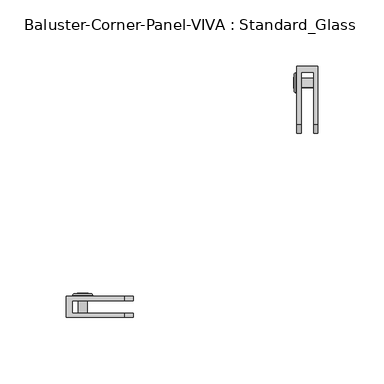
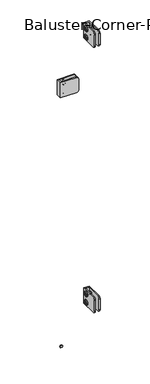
"""IFC4 building model written with IfcOpenShell, lengths in millimetres: railing geometry, Baluster-Corner-Panel-VIVA : Standard_Glass."""

from ifc_helpers import new_model, si_unit, point, frame, origin, place, context, project, spatial, polyline, circle_curve, ellipse_curve, trimmed, outline, extrude, source, transform, mapped, element, save
from ifc_brep_helpers import plane_surface, cylinder_surface, revolved_surface, advanced_brep


def baluster_corner_panel_viva_standard_glass_9f2badbb(model_context):
    return source(origin(), model_context, "Body", "SolidModel", [
        extrude(outline(polyline([(141.7526171, 917.178125), (139.705653, 913.6326791), (135.6117247, 913.6326791), (133.5647606, 917.178125), (135.6117247, 920.7235709), (139.705653, 920.7235709), (141.7526171, 917.178125)])), frame((21.7024185, 0.0, 0.0), z_axis=(1.0, 0.0, 0.0), x_axis=(0.0, 1.0, 0.0)), (0.0, 0.0, 1.0), 1.4969696),
        advanced_brep(
        [(36.7665, 141.2041348, 917.178125), (36.7665, 134.1132429, 917.178125), (24.0665, 134.1132429, 917.178125), (24.0665, 141.2041348, 917.178125), (24.0665, 130.2508998, 917.178125), (24.0665, 145.0664779, 917.178125), (23.199388, 139.3147642, 917.178125), (23.199388, 136.0026135, 917.178125), (36.7665, 136.0026135, 917.178125), (36.7665, 139.3147642, 917.178125), (23.2316551, 145.0664779, 917.178125), (23.2316551, 130.2508998, 917.178125), (21.9503831, 131.5321718, 917.178125), (21.9503831, 143.7852059, 917.178125), (21.9503831, 133.3600933, 917.178125), (21.9503831, 141.9572844, 917.178125), (23.199388, 133.3600933, 917.178125), (23.199388, 141.9572844, 917.178125)],
        [
            (0, 1, circle_curve(frame((36.7665, 137.6586888, 917.178125), z_axis=(-1.0, 0.0, 0.0), x_axis=(0.0, -1.0, 0.0)), 3.5454459)),
            (1, 2),
            (2, 3, circle_curve(frame((24.0665, 137.6586888, 917.178125), z_axis=(1.0, 0.0, 0.0), x_axis=(0.0, -1.0, 0.0)), 3.5454459)),
            (3, 0),
            (1, 0, circle_curve(frame((36.7665, 137.6586888, 917.178125), z_axis=(-1.0, 0.0, 0.0), x_axis=(0.0, -1.0, 0.0)), 3.5454459)),
            (3, 2, circle_curve(frame((24.0665, 137.6586888, 917.178125), z_axis=(1.0, 0.0, 0.0), x_axis=(0.0, -1.0, 0.0)), 3.5454459)),
            (2, 4),
            (4, 5, circle_curve(frame((24.0665, 137.6586888, 917.178125), z_axis=(1.0, 0.0, 0.0), x_axis=(0.0, -1.0, 0.0)), 7.4077891)),
            (5, 3),
            (5, 4, circle_curve(frame((24.0665, 137.6586888, 917.178125), z_axis=(1.0, 0.0, 0.0), x_axis=(0.0, -1.0, 0.0)), 7.4077891)),
            (6, 7, circle_curve(frame((23.199388, 137.6586888, 917.178125), z_axis=(-1.0, 0.0, 0.0), x_axis=(0.0, -1.0, 0.0)), 1.6560754)),
            (7, 8),
            (8, 9, circle_curve(frame((36.7665, 137.6586888, 917.178125), z_axis=(1.0, 0.0, 0.0), x_axis=(0.0, -1.0, 0.0)), 1.6560754)),
            (9, 6),
            (7, 6, circle_curve(frame((23.199388, 137.6586888, 917.178125), z_axis=(-1.0, 0.0, 0.0), x_axis=(0.0, -1.0, 0.0)), 1.6560754)),
            (9, 8, circle_curve(frame((36.7665, 137.6586888, 917.178125), z_axis=(1.0, 0.0, 0.0), x_axis=(0.0, -1.0, 0.0)), 1.6560754)),
            (10, 11, circle_curve(frame((23.2316551, 137.6586888, 917.178125), z_axis=(-1.0, 0.0, 0.0), x_axis=(0.0, -1.0, 0.0)), 7.4077891)),
            (11, 12, circle_curve(frame((23.2316551, 131.5321718, 917.178125), z_axis=(0.0, 0.0, -1.0), x_axis=(0.0, -1.0, 0.0)), 1.281272)),
            (12, 13, circle_curve(frame((21.9503831, 137.6586888, 917.178125), z_axis=(1.0, 0.0, 0.0), x_axis=(0.0, -1.0, 0.0)), 6.1265171)),
            (13, 10, circle_curve(frame((23.2316551, 143.7852059, 917.178125), z_axis=(0.0, 0.0, -1.0), x_axis=(0.0, 1.0, 0.0)), 1.281272)),
            (11, 10, circle_curve(frame((23.2316551, 137.6586888, 917.178125), z_axis=(-1.0, 0.0, 0.0), x_axis=(0.0, -1.0, 0.0)), 7.4077891)),
            (13, 12, circle_curve(frame((21.9503831, 137.6586888, 917.178125), z_axis=(1.0, 0.0, 0.0), x_axis=(0.0, -1.0, 0.0)), 6.1265171)),
            (12, 14),
            (14, 15, circle_curve(frame((21.9503831, 137.6586888, 917.178125), z_axis=(1.0, 0.0, 0.0), x_axis=(0.0, -1.0, 0.0)), 4.2985955)),
            (15, 13),
            (15, 14, circle_curve(frame((21.9503831, 137.6586888, 917.178125), z_axis=(1.0, 0.0, 0.0), x_axis=(0.0, -1.0, 0.0)), 4.2985955)),
            (4, 11),
            (10, 5),
            (8, 1),
            (0, 9),
            (14, 16),
            (16, 17, circle_curve(frame((23.199388, 137.6586888, 917.178125), z_axis=(1.0, 0.0, 0.0), x_axis=(0.0, -1.0, 0.0)), 4.2985955)),
            (17, 15),
            (17, 16, circle_curve(frame((23.199388, 137.6586888, 917.178125), z_axis=(1.0, 0.0, 0.0), x_axis=(0.0, -1.0, 0.0)), 4.2985955)),
            (16, 7),
            (6, 17),
        ],
        [
            cylinder_surface(frame((27.5632331, 137.6586888, 917.178125), z_axis=(1.0, 0.0, 0.0), x_axis=(0.0, -1.0, 0.0)), 3.5454459),
            plane_surface(frame((24.0665, 137.6586888, 917.178125), z_axis=(1.0, 0.0, 0.0), x_axis=(0.0, -1.0, 0.0))),
            revolved_surface(polyline([(36.7665, 136.0026134, 917.178125), (23.199388, 136.0026134, 917.178125)]), (27.5632331, 137.6586888, 917.178125), (1.0, 0.0, 0.0)),
            revolved_surface(trimmed(ellipse_curve(frame((23.2316551, 131.5321718, 917.178125), z_axis=(0.0, 0.0, 1.0), x_axis=(0.0, -1.0, 0.0)), 1.281272, 1.281272), [point((21.9503831, 131.5321718, 917.178125))], [point((23.2316551, 130.2508998, 917.178125))], True, "CARTESIAN"), (27.5632331, 137.6586888, 917.178125), (1.0, 0.0, 0.0)),
            plane_surface(frame((21.9503831, 137.6586888, 917.178125), z_axis=(-1.0, 0.0, 0.0), x_axis=(0.0, -1.0, 0.0))),
            cylinder_surface(frame((27.5632331, 137.6586888, 917.178125), z_axis=(1.0, 0.0, 0.0), x_axis=(0.0, -1.0, 0.0)), 7.4077891),
            plane_surface(frame((36.7665, 137.6586888, 917.178125), z_axis=(1.0, 0.0, 0.0), x_axis=(0.0, -1.0, 0.0))),
            revolved_surface(polyline([(23.199388, 133.3600933, 917.178125), (21.9503831, 133.3600933, 917.178125)]), (27.5632331, 137.6586888, 917.178125), (1.0, 0.0, 0.0)),
            plane_surface(frame((23.199388, 137.6586888, 917.178125), z_axis=(-1.0, 0.0, 0.0), x_axis=(0.0, -1.0, 0.0))),
        ],
        [
            (0, [[1, 2, 3, 4]]),
            (0, [[5, -4, 6, -2]]),
            (1, [[-3, 7, 8, 9]]),
            (1, [[-6, -9, 10, -7]]),
            (2, [[11, 12, 13, 14]]),
            (2, [[15, -14, 16, -12]]),
            (3, [[17, 18, 19, 20]]),
            (3, [[21, -20, 22, -18]]),
            (4, [[-19, 23, 24, 25]]),
            (4, [[-22, -25, 26, -23]]),
            (5, [[-8, 27, -17, 28]]),
            (5, [[-10, -28, -21, -27]]),
            (6, [[-13, 29, -1, 30]]),
            (6, [[-16, -30, -5, -29]]),
            (7, [[-24, 31, 32, 33]]),
            (7, [[-26, -33, 34, -31]]),
            (8, [[-32, 35, -11, 36]]),
            (8, [[-34, -36, -15, -35]]),
        ],
    ),
        advanced_brep(
        [(36.7665, 141.2041348, 892.571875), (36.7665, 134.1132429, 892.571875), (24.0665, 134.1132429, 892.571875), (24.0665, 141.2041348, 892.571875), (24.0665, 130.2508998, 892.571875), (24.0665, 145.0664779, 892.571875), (23.199388, 139.3147642, 892.571875), (23.199388, 136.0026135, 892.571875), (36.7665, 136.0026135, 892.571875), (36.7665, 139.3147642, 892.571875), (23.2316551, 145.0664779, 892.571875), (23.2316551, 130.2508998, 892.571875), (21.9503831, 131.5321718, 892.571875), (21.9503831, 143.7852059, 892.571875), (21.9503831, 133.3600933, 892.571875), (21.9503831, 141.9572844, 892.571875), (23.199388, 133.3600933, 892.571875), (23.199388, 141.9572844, 892.571875)],
        [
            (0, 1, circle_curve(frame((36.7665, 137.6586888, 892.571875), z_axis=(-1.0, 0.0, 0.0), x_axis=(0.0, -1.0, 0.0)), 3.5454459)),
            (1, 2),
            (2, 3, circle_curve(frame((24.0665, 137.6586888, 892.571875), z_axis=(1.0, 0.0, 0.0), x_axis=(0.0, -1.0, 0.0)), 3.5454459)),
            (3, 0),
            (1, 0, circle_curve(frame((36.7665, 137.6586888, 892.571875), z_axis=(-1.0, 0.0, 0.0), x_axis=(0.0, -1.0, 0.0)), 3.5454459)),
            (3, 2, circle_curve(frame((24.0665, 137.6586888, 892.571875), z_axis=(1.0, 0.0, 0.0), x_axis=(0.0, -1.0, 0.0)), 3.5454459)),
            (2, 4),
            (4, 5, circle_curve(frame((24.0665, 137.6586888, 892.571875), z_axis=(1.0, 0.0, 0.0), x_axis=(0.0, -1.0, 0.0)), 7.4077891)),
            (5, 3),
            (5, 4, circle_curve(frame((24.0665, 137.6586888, 892.571875), z_axis=(1.0, 0.0, 0.0), x_axis=(0.0, -1.0, 0.0)), 7.4077891)),
            (6, 7, circle_curve(frame((23.199388, 137.6586888, 892.571875), z_axis=(-1.0, 0.0, 0.0), x_axis=(0.0, -1.0, 0.0)), 1.6560754)),
            (7, 8),
            (8, 9, circle_curve(frame((36.7665, 137.6586888, 892.571875), z_axis=(1.0, 0.0, 0.0), x_axis=(0.0, -1.0, 0.0)), 1.6560754)),
            (9, 6),
            (7, 6, circle_curve(frame((23.199388, 137.6586888, 892.571875), z_axis=(-1.0, 0.0, 0.0), x_axis=(0.0, -1.0, 0.0)), 1.6560754)),
            (9, 8, circle_curve(frame((36.7665, 137.6586888, 892.571875), z_axis=(1.0, 0.0, 0.0), x_axis=(0.0, -1.0, 0.0)), 1.6560754)),
            (10, 11, circle_curve(frame((23.2316551, 137.6586888, 892.571875), z_axis=(-1.0, 0.0, 0.0), x_axis=(0.0, -1.0, 0.0)), 7.4077891)),
            (11, 12, circle_curve(frame((23.2316551, 131.5321718, 892.571875), z_axis=(0.0, 0.0, -1.0), x_axis=(0.0, -1.0, 0.0)), 1.281272)),
            (12, 13, circle_curve(frame((21.9503831, 137.6586888, 892.571875), z_axis=(1.0, 0.0, 0.0), x_axis=(0.0, -1.0, 0.0)), 6.1265171)),
            (13, 10, circle_curve(frame((23.2316551, 143.7852059, 892.571875), z_axis=(0.0, 0.0, -1.0), x_axis=(0.0, 1.0, 0.0)), 1.281272)),
            (11, 10, circle_curve(frame((23.2316551, 137.6586888, 892.571875), z_axis=(-1.0, 0.0, 0.0), x_axis=(0.0, -1.0, 0.0)), 7.4077891)),
            (13, 12, circle_curve(frame((21.9503831, 137.6586888, 892.571875), z_axis=(1.0, 0.0, 0.0), x_axis=(0.0, -1.0, 0.0)), 6.1265171)),
            (12, 14),
            (14, 15, circle_curve(frame((21.9503831, 137.6586888, 892.571875), z_axis=(1.0, 0.0, 0.0), x_axis=(0.0, -1.0, 0.0)), 4.2985955)),
            (15, 13),
            (15, 14, circle_curve(frame((21.9503831, 137.6586888, 892.571875), z_axis=(1.0, 0.0, 0.0), x_axis=(0.0, -1.0, 0.0)), 4.2985955)),
            (8, 1),
            (0, 9),
            (4, 11),
            (10, 5),
            (14, 16),
            (16, 17, circle_curve(frame((23.199388, 137.6586888, 892.571875), z_axis=(1.0, 0.0, 0.0), x_axis=(0.0, -1.0, 0.0)), 4.2985955)),
            (17, 15),
            (17, 16, circle_curve(frame((23.199388, 137.6586888, 892.571875), z_axis=(1.0, 0.0, 0.0), x_axis=(0.0, -1.0, 0.0)), 4.2985955)),
            (16, 7),
            (6, 17),
        ],
        [
            cylinder_surface(frame((27.5632331, 137.6586888, 892.571875), z_axis=(1.0, 0.0, 0.0), x_axis=(0.0, -1.0, 0.0)), 3.5454459),
            plane_surface(frame((24.0665, 137.6586888, 892.571875), z_axis=(1.0, 0.0, 0.0), x_axis=(0.0, -1.0, 0.0))),
            revolved_surface(polyline([(36.7665, 136.0026134, 892.571875), (23.199388, 136.0026134, 892.571875)]), (27.5632331, 137.6586888, 892.571875), (1.0, 0.0, 0.0)),
            revolved_surface(trimmed(ellipse_curve(frame((23.2316551, 131.5321718, 892.571875), z_axis=(0.0, 0.0, 1.0), x_axis=(0.0, -1.0, 0.0)), 1.281272, 1.281272), [point((21.9503831, 131.5321718, 892.571875))], [point((23.2316551, 130.2508998, 892.571875))], True, "CARTESIAN"), (27.5632331, 137.6586888, 892.571875), (1.0, 0.0, 0.0)),
            plane_surface(frame((21.9503831, 137.6586888, 892.571875), z_axis=(-1.0, 0.0, 0.0), x_axis=(0.0, -1.0, 0.0))),
            plane_surface(frame((36.7665, 137.6586888, 892.571875), z_axis=(1.0, 0.0, 0.0), x_axis=(0.0, -1.0, 0.0))),
            cylinder_surface(frame((27.5632331, 137.6586888, 892.571875), z_axis=(1.0, 0.0, 0.0), x_axis=(0.0, -1.0, 0.0)), 7.4077891),
            revolved_surface(polyline([(23.199388, 133.3600933, 892.571875), (21.9503831, 133.3600933, 892.571875)]), (27.5632331, 137.6586888, 892.571875), (1.0, 0.0, 0.0)),
            plane_surface(frame((23.199388, 137.6586888, 892.571875), z_axis=(-1.0, 0.0, 0.0), x_axis=(0.0, -1.0, 0.0))),
        ],
        [
            (0, [[1, 2, 3, 4]]),
            (0, [[5, -4, 6, -2]]),
            (1, [[-3, 7, 8, 9]]),
            (1, [[-6, -9, 10, -7]]),
            (2, [[11, 12, 13, 14]]),
            (2, [[15, -14, 16, -12]]),
            (3, [[17, 18, 19, 20]]),
            (3, [[21, -20, 22, -18]]),
            (4, [[-19, 23, 24, 25]]),
            (4, [[-22, -25, 26, -23]]),
            (5, [[-13, 27, -1, 28]]),
            (5, [[-16, -28, -5, -27]]),
            (6, [[-8, 29, -17, 30]]),
            (6, [[-10, -30, -21, -29]]),
            (7, [[-24, 31, 32, 33]]),
            (7, [[-26, -33, 34, -31]]),
            (8, [[-32, 35, -11, 36]]),
            (8, [[-34, -36, -15, -35]]),
        ],
    ),
        extrude(outline(polyline([(141.7526171, 892.571875), (139.705653, 889.0264291), (135.6117247, 889.0264291), (133.5647606, 892.571875), (135.6117247, 896.1173209), (139.705653, 896.1173209), (141.7526171, 892.571875)])), frame((21.7024185, 0.0, 0.0), z_axis=(1.0, 0.0, 0.0), x_axis=(0.0, 1.0, 0.0)), (0.0, 0.0, 1.0), 1.4969696),
        advanced_brep(
        [(24.0665, 150.2920336, 927.1), (24.0665, 150.2920336, 882.65), (24.0665, 105.8420336, 882.65), (24.0665, 99.4920336, 889.0), (24.0665, 99.4920336, 920.75), (24.0665, 105.8420336, 927.1), (39.9415, 150.2920336, 927.1), (39.9415, 105.8420336, 927.1), (39.9415, 99.4920336, 920.75), (39.9415, 99.4920336, 889.0), (39.9415, 105.8420336, 882.65), (39.9415, 150.2920336, 882.65), (36.7665, 105.8420336, 882.65), (36.7665, 145.5739532, 882.65), (27.2415, 145.5739532, 882.65), (27.2415, 105.8420336, 882.65), (36.7665, 145.5739532, 927.1), (27.2415, 145.5739532, 927.1), (27.2415, 105.8420336, 927.1), (27.2415, 99.4920336, 920.75), (27.2415, 99.4920336, 889.0), (36.7665, 99.4920336, 889.0), (36.7665, 99.4920336, 920.75), (36.7665, 105.8420336, 927.1)],
        [
            (0, 1),
            (1, 2),
            (2, 3, circle_curve(frame((24.0665, 105.8420336, 889.0), z_axis=(-1.0, 0.0, 0.0), x_axis=(0.0, -1.0, 0.0)), 6.35)),
            (3, 4),
            (4, 5, circle_curve(frame((24.0665, 105.8420336, 920.75), z_axis=(-1.0, 0.0, 0.0), x_axis=(0.0, -1.0, 0.0)), 6.35)),
            (5, 0),
            (6, 7),
            (7, 8, circle_curve(frame((39.9415, 105.8420336, 920.75), z_axis=(1.0, 0.0, 0.0), x_axis=(0.0, -1.0, 0.0)), 6.35)),
            (8, 9),
            (9, 10, circle_curve(frame((39.9415, 105.8420336, 889.0), z_axis=(1.0, 0.0, 0.0), x_axis=(0.0, -1.0, 0.0)), 6.35)),
            (10, 11),
            (11, 6),
            (0, 6),
            (11, 1),
            (10, 12),
            (12, 13),
            (13, 14),
            (14, 15),
            (15, 2),
            (13, 16),
            (16, 17),
            (17, 14),
            (17, 18),
            (18, 19, circle_curve(frame((27.2415, 105.8420336, 920.75), z_axis=(1.0, 0.0, 0.0), x_axis=(0.0, -1.0, 0.0)), 6.35)),
            (19, 20),
            (20, 15, circle_curve(frame((27.2415, 105.8420336, 889.0), z_axis=(1.0, 0.0, 0.0), x_axis=(0.0, -1.0, 0.0)), 6.35)),
            (12, 21, circle_curve(frame((36.7665, 105.8420336, 889.0), z_axis=(-1.0, 0.0, 0.0), x_axis=(0.0, -1.0, 0.0)), 6.35)),
            (21, 22),
            (22, 23, circle_curve(frame((36.7665, 105.8420336, 920.75), z_axis=(-1.0, 0.0, 0.0), x_axis=(0.0, -1.0, 0.0)), 6.35)),
            (23, 16),
            (20, 3),
            (9, 21),
            (19, 4),
            (8, 22),
            (18, 5),
            (7, 23),
        ],
        [
            plane_surface(frame((24.0665, 150.2920336, 882.65), z_axis=(-1.0, 0.0, 0.0), x_axis=(0.0, 0.0, -1.0))),
            plane_surface(frame((39.9415, 150.2920336, 882.65), z_axis=(1.0, 0.0, 0.0), x_axis=(0.0, 0.0, 1.0))),
            plane_surface(frame((24.0665, 150.2920336, 927.1), z_axis=(0.0, 1.0, 0.0), x_axis=(1.0, 0.0, 0.0))),
            plane_surface(frame((24.0665, 150.2920336, 882.65), z_axis=(0.0, 0.0, -1.0), x_axis=(1.0, 0.0, 0.0))),
            plane_surface(frame((36.7665, 145.5739532, 939.8), z_axis=(0.0, -1.0, 0.0), x_axis=(0.0, 0.0, -1.0))),
            plane_surface(frame((27.2415, 145.5739532, 939.8), z_axis=(1.0, 0.0, 0.0), x_axis=(0.0, 0.0, -1.0))),
            plane_surface(frame((36.7665, 86.7920336, 939.8), z_axis=(-1.0, 0.0, 0.0), x_axis=(0.0, 0.0, -1.0))),
            cylinder_surface(frame((39.9415, 105.8420336, 889.0), z_axis=(-1.0, 0.0, 0.0), x_axis=(0.0, -1.0, 0.0)), 6.35),
            plane_surface(frame((24.0665, 99.4920336, 889.0), z_axis=(0.0, -1.0, 0.0), x_axis=(1.0, 0.0, 0.0))),
            cylinder_surface(frame((39.9415, 105.8420336, 920.75), z_axis=(-1.0, 0.0, 0.0), x_axis=(0.0, -1.0, 0.0)), 6.35),
            plane_surface(frame((24.0665, 105.8420336, 927.1), z_axis=(0.0, 0.0, 1.0), x_axis=(1.0, 0.0, 0.0))),
        ],
        [
            (0, [[1, 2, 3, 4, 5, 6]]),
            (1, [[7, 8, 9, 10, 11, 12]]),
            (2, [[-1, 13, -12, 14]]),
            (3, [[-2, -14, -11, 15, 16, 17, 18, 19]]),
            (4, [[20, 21, 22, -17]]),
            (5, [[-22, 23, 24, 25, 26, -18]]),
            (6, [[-20, -16, 27, 28, 29, 30]]),
            (7, [[-3, -19, -26, 31]]),
            (7, [[-10, 32, -27, -15]]),
            (8, [[-4, -31, -25, 33]]),
            (8, [[-9, 34, -28, -32]]),
            (9, [[-5, -33, -24, 35]]),
            (9, [[-8, 36, -29, -34]]),
            (10, [[-6, -35, -23, -21, -30, -36, -7, -13]]),
        ],
    ),
        extrude(outline(polyline([(141.7526171, 138.7358896), (139.705653, 135.1904437), (135.6117247, 135.1904437), (133.5647606, 138.7358896), (135.6117247, 142.2813355), (139.705653, 142.2813355), (141.7526171, 138.7358896)])), frame((21.7024185, 0.0, 0.0), z_axis=(1.0, 0.0, 0.0), x_axis=(0.0, 1.0, 0.0)), (0.0, 0.0, 1.0), 1.4969696),
        advanced_brep(
        [(36.7665, 141.2041348, 138.7358896), (36.7665, 134.1132429, 138.7358896), (24.0665, 134.1132429, 138.7358896), (24.0665, 141.2041348, 138.7358896), (24.0665, 130.2508998, 138.7358896), (24.0665, 145.0664779, 138.7358896), (23.199388, 139.3147642, 138.7358896), (23.199388, 136.0026135, 138.7358896), (36.7665, 136.0026135, 138.7358896), (36.7665, 139.3147642, 138.7358896), (23.2316551, 145.0664779, 138.7358896), (23.2316551, 130.2508998, 138.7358896), (21.9503831, 131.5321718, 138.7358896), (21.9503831, 143.7852059, 138.7358896), (21.9503831, 133.3600933, 138.7358896), (21.9503831, 141.9572844, 138.7358896), (23.199388, 133.3600933, 138.7358896), (23.199388, 141.9572844, 138.7358896)],
        [
            (0, 1, circle_curve(frame((36.7665, 137.6586888, 138.7358896), z_axis=(-1.0, 0.0, 0.0), x_axis=(0.0, -1.0, 0.0)), 3.5454459)),
            (1, 2),
            (2, 3, circle_curve(frame((24.0665, 137.6586888, 138.7358896), z_axis=(1.0, 0.0, 0.0), x_axis=(0.0, -1.0, 0.0)), 3.5454459)),
            (3, 0),
            (1, 0, circle_curve(frame((36.7665, 137.6586888, 138.7358896), z_axis=(-1.0, 0.0, 0.0), x_axis=(0.0, -1.0, 0.0)), 3.5454459)),
            (3, 2, circle_curve(frame((24.0665, 137.6586888, 138.7358896), z_axis=(1.0, 0.0, 0.0), x_axis=(0.0, -1.0, 0.0)), 3.5454459)),
            (2, 4),
            (4, 5, circle_curve(frame((24.0665, 137.6586888, 138.7358896), z_axis=(1.0, 0.0, 0.0), x_axis=(0.0, -1.0, 0.0)), 7.4077891)),
            (5, 3),
            (5, 4, circle_curve(frame((24.0665, 137.6586888, 138.7358896), z_axis=(1.0, 0.0, 0.0), x_axis=(0.0, -1.0, 0.0)), 7.4077891)),
            (6, 7, circle_curve(frame((23.199388, 137.6586888, 138.7358896), z_axis=(-1.0, 0.0, 0.0), x_axis=(0.0, -1.0, 0.0)), 1.6560754)),
            (7, 8),
            (8, 9, circle_curve(frame((36.7665, 137.6586888, 138.7358896), z_axis=(1.0, 0.0, 0.0), x_axis=(0.0, -1.0, 0.0)), 1.6560754)),
            (9, 6),
            (7, 6, circle_curve(frame((23.199388, 137.6586888, 138.7358896), z_axis=(-1.0, 0.0, 0.0), x_axis=(0.0, -1.0, 0.0)), 1.6560754)),
            (9, 8, circle_curve(frame((36.7665, 137.6586888, 138.7358896), z_axis=(1.0, 0.0, 0.0), x_axis=(0.0, -1.0, 0.0)), 1.6560754)),
            (10, 11, circle_curve(frame((23.2316551, 137.6586888, 138.7358896), z_axis=(-1.0, 0.0, 0.0), x_axis=(0.0, -1.0, 0.0)), 7.4077891)),
            (11, 12, circle_curve(frame((23.2316551, 131.5321718, 138.7358896), z_axis=(0.0, 0.0, -1.0), x_axis=(0.0, -1.0, 0.0)), 1.281272)),
            (12, 13, circle_curve(frame((21.9503831, 137.6586888, 138.7358896), z_axis=(1.0, 0.0, 0.0), x_axis=(0.0, -1.0, 0.0)), 6.1265171)),
            (13, 10, circle_curve(frame((23.2316551, 143.7852059, 138.7358896), z_axis=(0.0, 0.0, -1.0), x_axis=(0.0, 1.0, 0.0)), 1.281272)),
            (11, 10, circle_curve(frame((23.2316551, 137.6586888, 138.7358896), z_axis=(-1.0, 0.0, 0.0), x_axis=(0.0, -1.0, 0.0)), 7.4077891)),
            (13, 12, circle_curve(frame((21.9503831, 137.6586888, 138.7358896), z_axis=(1.0, 0.0, 0.0), x_axis=(0.0, -1.0, 0.0)), 6.1265171)),
            (12, 14),
            (14, 15, circle_curve(frame((21.9503831, 137.6586888, 138.7358896), z_axis=(1.0, 0.0, 0.0), x_axis=(0.0, -1.0, 0.0)), 4.2985955)),
            (15, 13),
            (15, 14, circle_curve(frame((21.9503831, 137.6586888, 138.7358896), z_axis=(1.0, 0.0, 0.0), x_axis=(0.0, -1.0, 0.0)), 4.2985955)),
            (4, 11),
            (10, 5),
            (8, 1),
            (0, 9),
            (14, 16),
            (16, 17, circle_curve(frame((23.199388, 137.6586888, 138.7358896), z_axis=(1.0, 0.0, 0.0), x_axis=(0.0, -1.0, 0.0)), 4.2985955)),
            (17, 15),
            (17, 16, circle_curve(frame((23.199388, 137.6586888, 138.7358896), z_axis=(1.0, 0.0, 0.0), x_axis=(0.0, -1.0, 0.0)), 4.2985955)),
            (16, 7),
            (6, 17),
        ],
        [
            cylinder_surface(frame((27.5632331, 137.6586888, 138.7358896), z_axis=(1.0, 0.0, 0.0), x_axis=(0.0, -1.0, 0.0)), 3.5454459),
            plane_surface(frame((24.0665, 137.6586888, 138.7358896), z_axis=(1.0, 0.0, 0.0), x_axis=(0.0, -1.0, 0.0))),
            revolved_surface(polyline([(36.7665, 136.0026134, 138.7358896), (23.199388, 136.0026134, 138.7358896)]), (27.5632331, 137.6586888, 138.7358896), (1.0, 0.0, 0.0)),
            revolved_surface(trimmed(ellipse_curve(frame((23.2316551, 131.5321718, 138.7358896), z_axis=(0.0, 0.0, 1.0), x_axis=(0.0, -1.0, 0.0)), 1.281272, 1.281272), [point((21.9503831, 131.5321718, 138.7358896))], [point((23.2316551, 130.2508998, 138.7358896))], True, "CARTESIAN"), (27.5632331, 137.6586888, 138.7358896), (1.0, 0.0, 0.0)),
            plane_surface(frame((21.9503831, 137.6586888, 138.7358896), z_axis=(-1.0, 0.0, 0.0), x_axis=(0.0, -1.0, 0.0))),
            cylinder_surface(frame((27.5632331, 137.6586888, 138.7358896), z_axis=(1.0, 0.0, 0.0), x_axis=(0.0, -1.0, 0.0)), 7.4077891),
            plane_surface(frame((36.7665, 137.6586888, 138.7358896), z_axis=(1.0, 0.0, 0.0), x_axis=(0.0, -1.0, 0.0))),
            revolved_surface(polyline([(23.199388, 133.3600933, 138.7358896), (21.9503831, 133.3600933, 138.7358896)]), (27.5632331, 137.6586888, 138.7358896), (1.0, 0.0, 0.0)),
            plane_surface(frame((23.199388, 137.6586888, 138.7358896), z_axis=(-1.0, 0.0, 0.0), x_axis=(0.0, -1.0, 0.0))),
        ],
        [
            (0, [[1, 2, 3, 4]]),
            (0, [[5, -4, 6, -2]]),
            (1, [[-3, 7, 8, 9]]),
            (1, [[-6, -9, 10, -7]]),
            (2, [[11, 12, 13, 14]]),
            (2, [[15, -14, 16, -12]]),
            (3, [[17, 18, 19, 20]]),
            (3, [[21, -20, 22, -18]]),
            (4, [[-19, 23, 24, 25]]),
            (4, [[-22, -25, 26, -23]]),
            (5, [[-8, 27, -17, 28]]),
            (5, [[-10, -28, -21, -27]]),
            (6, [[-13, 29, -1, 30]]),
            (6, [[-16, -30, -5, -29]]),
            (7, [[-24, 31, 32, 33]]),
            (7, [[-26, -33, 34, -31]]),
            (8, [[-32, 35, -11, 36]]),
            (8, [[-34, -36, -15, -35]]),
        ],
    ),
        advanced_brep(
        [(36.7665, 141.2041348, 114.1296396), (36.7665, 134.1132429, 114.1296396), (24.0665, 134.1132429, 114.1296396), (24.0665, 141.2041348, 114.1296396), (24.0665, 130.2508998, 114.1296396), (24.0665, 145.0664779, 114.1296396), (23.199388, 139.3147642, 114.1296396), (23.199388, 136.0026135, 114.1296396), (36.7665, 136.0026135, 114.1296396), (36.7665, 139.3147642, 114.1296396), (23.2316551, 145.0664779, 114.1296396), (23.2316551, 130.2508998, 114.1296396), (21.9503831, 131.5321718, 114.1296396), (21.9503831, 143.7852059, 114.1296396), (21.9503831, 133.3600933, 114.1296396), (21.9503831, 141.9572844, 114.1296396), (23.199388, 133.3600933, 114.1296396), (23.199388, 141.9572844, 114.1296396)],
        [
            (0, 1, circle_curve(frame((36.7665, 137.6586888, 114.1296396), z_axis=(-1.0, 0.0, 0.0), x_axis=(0.0, -1.0, 0.0)), 3.5454459)),
            (1, 2),
            (2, 3, circle_curve(frame((24.0665, 137.6586888, 114.1296396), z_axis=(1.0, 0.0, 0.0), x_axis=(0.0, -1.0, 0.0)), 3.5454459)),
            (3, 0),
            (1, 0, circle_curve(frame((36.7665, 137.6586888, 114.1296396), z_axis=(-1.0, 0.0, 0.0), x_axis=(0.0, -1.0, 0.0)), 3.5454459)),
            (3, 2, circle_curve(frame((24.0665, 137.6586888, 114.1296396), z_axis=(1.0, 0.0, 0.0), x_axis=(0.0, -1.0, 0.0)), 3.5454459)),
            (2, 4),
            (4, 5, circle_curve(frame((24.0665, 137.6586888, 114.1296396), z_axis=(1.0, 0.0, 0.0), x_axis=(0.0, -1.0, 0.0)), 7.4077891)),
            (5, 3),
            (5, 4, circle_curve(frame((24.0665, 137.6586888, 114.1296396), z_axis=(1.0, 0.0, 0.0), x_axis=(0.0, -1.0, 0.0)), 7.4077891)),
            (6, 7, circle_curve(frame((23.199388, 137.6586888, 114.1296396), z_axis=(-1.0, 0.0, 0.0), x_axis=(0.0, -1.0, 0.0)), 1.6560754)),
            (7, 8),
            (8, 9, circle_curve(frame((36.7665, 137.6586888, 114.1296396), z_axis=(1.0, 0.0, 0.0), x_axis=(0.0, -1.0, 0.0)), 1.6560754)),
            (9, 6),
            (7, 6, circle_curve(frame((23.199388, 137.6586888, 114.1296396), z_axis=(-1.0, 0.0, 0.0), x_axis=(0.0, -1.0, 0.0)), 1.6560754)),
            (9, 8, circle_curve(frame((36.7665, 137.6586888, 114.1296396), z_axis=(1.0, 0.0, 0.0), x_axis=(0.0, -1.0, 0.0)), 1.6560754)),
            (10, 11, circle_curve(frame((23.2316551, 137.6586888, 114.1296396), z_axis=(-1.0, 0.0, 0.0), x_axis=(0.0, -1.0, 0.0)), 7.4077891)),
            (11, 12, circle_curve(frame((23.2316551, 131.5321718, 114.1296396), z_axis=(0.0, 0.0, -1.0), x_axis=(0.0, -1.0, 0.0)), 1.281272)),
            (12, 13, circle_curve(frame((21.9503831, 137.6586888, 114.1296396), z_axis=(1.0, 0.0, 0.0), x_axis=(0.0, -1.0, 0.0)), 6.1265171)),
            (13, 10, circle_curve(frame((23.2316551, 143.7852059, 114.1296396), z_axis=(0.0, 0.0, -1.0), x_axis=(0.0, 1.0, 0.0)), 1.281272)),
            (11, 10, circle_curve(frame((23.2316551, 137.6586888, 114.1296396), z_axis=(-1.0, 0.0, 0.0), x_axis=(0.0, -1.0, 0.0)), 7.4077891)),
            (13, 12, circle_curve(frame((21.9503831, 137.6586888, 114.1296396), z_axis=(1.0, 0.0, 0.0), x_axis=(0.0, -1.0, 0.0)), 6.1265171)),
            (12, 14),
            (14, 15, circle_curve(frame((21.9503831, 137.6586888, 114.1296396), z_axis=(1.0, 0.0, 0.0), x_axis=(0.0, -1.0, 0.0)), 4.2985955)),
            (15, 13),
            (15, 14, circle_curve(frame((21.9503831, 137.6586888, 114.1296396), z_axis=(1.0, 0.0, 0.0), x_axis=(0.0, -1.0, 0.0)), 4.2985955)),
            (8, 1),
            (0, 9),
            (4, 11),
            (10, 5),
            (14, 16),
            (16, 17, circle_curve(frame((23.199388, 137.6586888, 114.1296396), z_axis=(1.0, 0.0, 0.0), x_axis=(0.0, -1.0, 0.0)), 4.2985955)),
            (17, 15),
            (17, 16, circle_curve(frame((23.199388, 137.6586888, 114.1296396), z_axis=(1.0, 0.0, 0.0), x_axis=(0.0, -1.0, 0.0)), 4.2985955)),
            (16, 7),
            (6, 17),
        ],
        [
            cylinder_surface(frame((27.5632331, 137.6586888, 114.1296396), z_axis=(1.0, 0.0, 0.0), x_axis=(0.0, -1.0, 0.0)), 3.5454459),
            plane_surface(frame((24.0665, 137.6586888, 114.1296396), z_axis=(1.0, 0.0, 0.0), x_axis=(0.0, -1.0, 0.0))),
            revolved_surface(polyline([(36.7665, 136.0026134, 114.1296396), (23.199388, 136.0026134, 114.1296396)]), (27.5632331, 137.6586888, 114.1296396), (1.0, 0.0, 0.0)),
            revolved_surface(trimmed(ellipse_curve(frame((23.2316551, 131.5321718, 114.1296396), z_axis=(0.0, 0.0, 1.0), x_axis=(0.0, -1.0, 0.0)), 1.281272, 1.281272), [point((21.9503831, 131.5321718, 114.1296396))], [point((23.2316551, 130.2508998, 114.1296396))], True, "CARTESIAN"), (27.5632331, 137.6586888, 114.1296396), (1.0, 0.0, 0.0)),
            plane_surface(frame((21.9503831, 137.6586888, 114.1296396), z_axis=(-1.0, 0.0, 0.0), x_axis=(0.0, -1.0, 0.0))),
            plane_surface(frame((36.7665, 137.6586888, 114.1296396), z_axis=(1.0, 0.0, 0.0), x_axis=(0.0, -1.0, 0.0))),
            cylinder_surface(frame((27.5632331, 137.6586888, 114.1296396), z_axis=(1.0, 0.0, 0.0), x_axis=(0.0, -1.0, 0.0)), 7.4077891),
            revolved_surface(polyline([(23.199388, 133.3600933, 114.1296396), (21.9503831, 133.3600933, 114.1296396)]), (27.5632331, 137.6586888, 114.1296396), (1.0, 0.0, 0.0)),
            plane_surface(frame((23.199388, 137.6586888, 114.1296396), z_axis=(-1.0, 0.0, 0.0), x_axis=(0.0, -1.0, 0.0))),
        ],
        [
            (0, [[1, 2, 3, 4]]),
            (0, [[5, -4, 6, -2]]),
            (1, [[-3, 7, 8, 9]]),
            (1, [[-6, -9, 10, -7]]),
            (2, [[11, 12, 13, 14]]),
            (2, [[15, -14, 16, -12]]),
            (3, [[17, 18, 19, 20]]),
            (3, [[21, -20, 22, -18]]),
            (4, [[-19, 23, 24, 25]]),
            (4, [[-22, -25, 26, -23]]),
            (5, [[-13, 27, -1, 28]]),
            (5, [[-16, -28, -5, -27]]),
            (6, [[-8, 29, -17, 30]]),
            (6, [[-10, -30, -21, -29]]),
            (7, [[-24, 31, 32, 33]]),
            (7, [[-26, -33, 34, -31]]),
            (8, [[-32, 35, -11, 36]]),
            (8, [[-34, -36, -15, -35]]),
        ],
    ),
        extrude(outline(polyline([(141.7526171, 114.1296396), (139.705653, 110.5841937), (135.6117247, 110.5841937), (133.5647606, 114.1296396), (135.6117247, 117.6750855), (139.705653, 117.6750855), (141.7526171, 114.1296396)])), frame((21.7024185, 0.0, 0.0), z_axis=(1.0, 0.0, 0.0), x_axis=(0.0, 1.0, 0.0)), (0.0, 0.0, 1.0), 1.4969696),
        advanced_brep(
        [(24.0665, 150.2920336, 148.6577646), (24.0665, 150.2920336, 104.2077646), (24.0665, 105.8420336, 104.2077646), (24.0665, 99.4920336, 110.5577646), (24.0665, 99.4920336, 142.3077646), (24.0665, 105.8420336, 148.6577646), (39.9415, 150.2920336, 148.6577646), (39.9415, 105.8420336, 148.6577646), (39.9415, 99.4920336, 142.3077646), (39.9415, 99.4920336, 110.5577646), (39.9415, 105.8420336, 104.2077646), (39.9415, 150.2920336, 104.2077646), (36.7665, 105.8420336, 104.2077646), (36.7665, 145.5739532, 104.2077646), (27.2415, 145.5739532, 104.2077646), (27.2415, 105.8420336, 104.2077646), (36.7665, 145.5739532, 148.6577646), (27.2415, 145.5739532, 148.6577646), (27.2415, 105.8420336, 148.6577646), (27.2415, 99.4920336, 142.3077646), (27.2415, 99.4920336, 110.5577646), (36.7665, 99.4920336, 110.5577646), (36.7665, 99.4920336, 142.3077646), (36.7665, 105.8420336, 148.6577646)],
        [
            (0, 1),
            (1, 2),
            (2, 3, circle_curve(frame((24.0665, 105.8420336, 110.5577646), z_axis=(-1.0, 0.0, 0.0), x_axis=(0.0, -1.0, 0.0)), 6.35)),
            (3, 4),
            (4, 5, circle_curve(frame((24.0665, 105.8420336, 142.3077646), z_axis=(-1.0, 0.0, 0.0), x_axis=(0.0, -1.0, 0.0)), 6.35)),
            (5, 0),
            (6, 7),
            (7, 8, circle_curve(frame((39.9415, 105.8420336, 142.3077646), z_axis=(1.0, 0.0, 0.0), x_axis=(0.0, -1.0, 0.0)), 6.35)),
            (8, 9),
            (9, 10, circle_curve(frame((39.9415, 105.8420336, 110.5577646), z_axis=(1.0, 0.0, 0.0), x_axis=(0.0, -1.0, 0.0)), 6.35)),
            (10, 11),
            (11, 6),
            (0, 6),
            (11, 1),
            (10, 12),
            (12, 13),
            (13, 14),
            (14, 15),
            (15, 2),
            (13, 16),
            (16, 17),
            (17, 14),
            (17, 18),
            (18, 19, circle_curve(frame((27.2415, 105.8420336, 142.3077646), z_axis=(1.0, 0.0, 0.0), x_axis=(0.0, -1.0, 0.0)), 6.35)),
            (19, 20),
            (20, 15, circle_curve(frame((27.2415, 105.8420336, 110.5577646), z_axis=(1.0, 0.0, 0.0), x_axis=(0.0, -1.0, 0.0)), 6.35)),
            (12, 21, circle_curve(frame((36.7665, 105.8420336, 110.5577646), z_axis=(-1.0, 0.0, 0.0), x_axis=(0.0, -1.0, 0.0)), 6.35)),
            (21, 22),
            (22, 23, circle_curve(frame((36.7665, 105.8420336, 142.3077646), z_axis=(-1.0, 0.0, 0.0), x_axis=(0.0, -1.0, 0.0)), 6.35)),
            (23, 16),
            (20, 3),
            (9, 21),
            (19, 4),
            (8, 22),
            (18, 5),
            (7, 23),
        ],
        [
            plane_surface(frame((24.0665, 150.2920336, 104.2077646), z_axis=(-1.0, 0.0, 0.0), x_axis=(0.0, 0.0, -1.0))),
            plane_surface(frame((39.9415, 150.2920336, 104.2077646), z_axis=(1.0, 0.0, 0.0), x_axis=(0.0, 0.0, 1.0))),
            plane_surface(frame((24.0665, 150.2920336, 148.6577646), z_axis=(0.0, 1.0, 0.0), x_axis=(1.0, 0.0, 0.0))),
            plane_surface(frame((24.0665, 150.2920336, 104.2077646), z_axis=(0.0, 0.0, -1.0), x_axis=(1.0, 0.0, 0.0))),
            plane_surface(frame((36.7665, 145.5739532, 161.3577646), z_axis=(0.0, -1.0, 0.0), x_axis=(0.0, 0.0, -1.0))),
            plane_surface(frame((27.2415, 145.5739532, 161.3577646), z_axis=(1.0, 0.0, 0.0), x_axis=(0.0, 0.0, -1.0))),
            plane_surface(frame((36.7665, 86.7920336, 161.3577646), z_axis=(-1.0, 0.0, 0.0), x_axis=(0.0, 0.0, -1.0))),
            cylinder_surface(frame((39.9415, 105.8420336, 110.5577646), z_axis=(-1.0, 0.0, 0.0), x_axis=(0.0, -1.0, 0.0)), 6.35),
            plane_surface(frame((24.0665, 99.4920336, 110.5577646), z_axis=(0.0, -1.0, 0.0), x_axis=(1.0, 0.0, 0.0))),
            cylinder_surface(frame((39.9415, 105.8420336, 142.3077646), z_axis=(-1.0, 0.0, 0.0), x_axis=(0.0, -1.0, 0.0)), 6.35),
            plane_surface(frame((24.0665, 105.8420336, 148.6577646), z_axis=(0.0, 0.0, 1.0), x_axis=(1.0, 0.0, 0.0))),
        ],
        [
            (0, [[1, 2, 3, 4, 5, 6]]),
            (1, [[7, 8, 9, 10, 11, 12]]),
            (2, [[-1, 13, -12, 14]]),
            (3, [[-2, -14, -11, 15, 16, 17, 18, 19]]),
            (4, [[20, 21, 22, -17]]),
            (5, [[-22, 23, 24, 25, 26, -18]]),
            (6, [[-20, -16, 27, 28, 29, 30]]),
            (7, [[-3, -19, -26, 31]]),
            (7, [[-10, 32, -27, -15]]),
            (8, [[-4, -31, -25, 33]]),
            (8, [[-9, 34, -28, -32]]),
            (9, [[-5, -33, -24, 35]]),
            (9, [[-8, 36, -29, -34]]),
            (10, [[-6, -35, -23, -21, -30, -36, -7, -13]]),
        ],
    ),
        extrude(outline(polyline([(917.178125, -142.2286639), (913.6326791, -140.1816998), (913.6326791, -136.0877715), (917.178125, -134.0408073), (920.7235709, -136.0877715), (920.7235709, -140.1816998), (917.178125, -142.2286639)])), frame((0.0, -23.199388, 0.0), z_axis=(0.0, 1.0, 0.0), x_axis=(0.0, 0.0, 1.0)), (0.0, 0.0, 1.0), 1.4969696),
        advanced_brep(
        [(-141.6801815, -36.7665, 917.178125), (-141.6801815, -24.0665, 917.178125), (-134.5892897, -24.0665, 917.178125), (-134.5892897, -36.7665, 917.178125), (-145.5425247, -24.0665, 917.178125), (-130.7269465, -24.0665, 917.178125), (-139.790811, -23.199388, 917.178125), (-139.790811, -36.7665, 917.178125), (-136.4786602, -36.7665, 917.178125), (-136.4786602, -23.199388, 917.178125), (-145.5425247, -23.2316551, 917.178125), (-144.2612527, -21.9503831, 917.178125), (-132.0082186, -21.9503831, 917.178125), (-130.7269465, -23.2316551, 917.178125), (-142.4333312, -21.9503831, 917.178125), (-133.8361401, -21.9503831, 917.178125), (-142.4333312, -23.199388, 917.178125), (-133.8361401, -23.199388, 917.178125)],
        [
            (0, 1),
            (1, 2, circle_curve(frame((-138.1347356, -24.0665, 917.178125), z_axis=(0.0, -1.0, 0.0), x_axis=(1.0, 0.0, 0.0)), 3.5454459)),
            (2, 3),
            (3, 0, circle_curve(frame((-138.1347356, -36.7665, 917.178125), z_axis=(0.0, 1.0, 0.0), x_axis=(1.0, 0.0, 0.0)), 3.5454459)),
            (2, 1, circle_curve(frame((-138.1347356, -24.0665, 917.178125), z_axis=(0.0, -1.0, 0.0), x_axis=(1.0, 0.0, 0.0)), 3.5454459)),
            (0, 3, circle_curve(frame((-138.1347356, -36.7665, 917.178125), z_axis=(0.0, 1.0, 0.0), x_axis=(1.0, 0.0, 0.0)), 3.5454459)),
            (1, 4),
            (4, 5, circle_curve(frame((-138.1347356, -24.0665, 917.178125), z_axis=(0.0, -1.0, 0.0), x_axis=(1.0, 0.0, 0.0)), 7.4077891)),
            (5, 2),
            (5, 4, circle_curve(frame((-138.1347356, -24.0665, 917.178125), z_axis=(0.0, -1.0, 0.0), x_axis=(1.0, 0.0, 0.0)), 7.4077891)),
            (6, 7),
            (7, 8, circle_curve(frame((-138.1347356, -36.7665, 917.178125), z_axis=(0.0, -1.0, 0.0), x_axis=(1.0, 0.0, 0.0)), 1.6560754)),
            (8, 9),
            (9, 6, circle_curve(frame((-138.1347356, -23.199388, 917.178125), z_axis=(0.0, 1.0, 0.0), x_axis=(1.0, 0.0, 0.0)), 1.6560754)),
            (8, 7, circle_curve(frame((-138.1347356, -36.7665, 917.178125), z_axis=(0.0, -1.0, 0.0), x_axis=(1.0, 0.0, 0.0)), 1.6560754)),
            (6, 9, circle_curve(frame((-138.1347356, -23.199388, 917.178125), z_axis=(0.0, 1.0, 0.0), x_axis=(1.0, 0.0, 0.0)), 1.6560754)),
            (10, 11, circle_curve(frame((-144.2612527, -23.2316551, 917.178125), z_axis=(0.0, 0.0, -1.0), x_axis=(-1.0, 0.0, 0.0)), 1.281272)),
            (11, 12, circle_curve(frame((-138.1347356, -21.9503831, 917.178125), z_axis=(0.0, -1.0, 0.0), x_axis=(1.0, 0.0, 0.0)), 6.1265171)),
            (12, 13, circle_curve(frame((-132.0082186, -23.2316551, 917.178125), z_axis=(0.0, 0.0, -1.0), x_axis=(1.0, 0.0, 0.0)), 1.281272)),
            (13, 10, circle_curve(frame((-138.1347356, -23.2316551, 917.178125), z_axis=(0.0, 1.0, 0.0), x_axis=(1.0, 0.0, 0.0)), 7.4077891)),
            (12, 11, circle_curve(frame((-138.1347356, -21.9503831, 917.178125), z_axis=(0.0, -1.0, 0.0), x_axis=(1.0, 0.0, 0.0)), 6.1265171)),
            (10, 13, circle_curve(frame((-138.1347356, -23.2316551, 917.178125), z_axis=(0.0, 1.0, 0.0), x_axis=(1.0, 0.0, 0.0)), 7.4077891)),
            (11, 14),
            (14, 15, circle_curve(frame((-138.1347356, -21.9503831, 917.178125), z_axis=(0.0, -1.0, 0.0), x_axis=(1.0, 0.0, 0.0)), 4.2985955)),
            (15, 12),
            (15, 14, circle_curve(frame((-138.1347356, -21.9503831, 917.178125), z_axis=(0.0, -1.0, 0.0), x_axis=(1.0, 0.0, 0.0)), 4.2985955)),
            (4, 10),
            (13, 5),
            (7, 0),
            (3, 8),
            (14, 16),
            (16, 17, circle_curve(frame((-138.1347356, -23.199388, 917.178125), z_axis=(0.0, -1.0, 0.0), x_axis=(1.0, 0.0, 0.0)), 4.2985955)),
            (17, 15),
            (17, 16, circle_curve(frame((-138.1347356, -23.199388, 917.178125), z_axis=(0.0, -1.0, 0.0), x_axis=(1.0, 0.0, 0.0)), 4.2985955)),
            (16, 6),
            (9, 17),
        ],
        [
            cylinder_surface(frame((-138.1347356, -27.5632331, 917.178125), z_axis=(0.0, -1.0, 0.0), x_axis=(1.0, 0.0, 0.0)), 3.5454459),
            plane_surface(frame((-138.1347356, -24.0665, 917.178125), z_axis=(0.0, -1.0, 0.0), x_axis=(1.0, 0.0, 0.0))),
            revolved_surface(polyline([(-136.4786602, -36.7665, 917.178125), (-136.4786602, -23.199388, 917.178125)]), (-138.1347356, -27.5632331, 917.178125), (0.0, -1.0, 0.0)),
            revolved_surface(trimmed(ellipse_curve(frame((-132.0082186, -23.2316551, 917.178125), z_axis=(0.0, 0.0, -1.0), x_axis=(1.0, 0.0, 0.0)), 1.281272, 1.281272), [point((-132.0082186, -21.9503831, 917.178125))], [point((-130.7269465, -23.2316551, 917.178125))], True, "CARTESIAN"), (-138.1347356, -27.5632331, 917.178125), (0.0, -1.0, 0.0)),
            plane_surface(frame((-138.1347356, -21.9503831, 917.178125), z_axis=(0.0, 1.0, 0.0), x_axis=(1.0, 0.0, 0.0))),
            cylinder_surface(frame((-138.1347356, -27.5632331, 917.178125), z_axis=(0.0, -1.0, 0.0), x_axis=(1.0, 0.0, 0.0)), 7.4077891),
            plane_surface(frame((-138.1347356, -36.7665, 917.178125), z_axis=(0.0, -1.0, 0.0), x_axis=(1.0, 0.0, 0.0))),
            revolved_surface(polyline([(-133.8361401, -23.199388, 917.178125), (-133.8361401, -21.9503831, 917.178125)]), (-138.1347356, -27.5632331, 917.178125), (0.0, -1.0, 0.0)),
            plane_surface(frame((-138.1347356, -23.199388, 917.178125), z_axis=(0.0, 1.0, 0.0), x_axis=(1.0, 0.0, 0.0))),
        ],
        [
            (0, [[1, 2, 3, 4]]),
            (0, [[-3, 5, -1, 6]]),
            (1, [[7, 8, 9, -2]]),
            (1, [[-9, 10, -7, -5]]),
            (2, [[11, 12, 13, 14]]),
            (2, [[-13, 15, -11, 16]]),
            (3, [[17, 18, 19, 20]]),
            (3, [[-19, 21, -17, 22]]),
            (4, [[23, 24, 25, -18]]),
            (4, [[-25, 26, -23, -21]]),
            (5, [[27, -20, 28, -8]]),
            (5, [[-28, -22, -27, -10]]),
            (6, [[29, -4, 30, -12]]),
            (6, [[-30, -6, -29, -15]]),
            (7, [[31, 32, 33, -24]]),
            (7, [[-33, 34, -31, -26]]),
            (8, [[35, -14, 36, -32]]),
            (8, [[-36, -16, -35, -34]]),
        ],
    ),
        advanced_brep(
        [(-141.6801815, -36.7665, 892.571875), (-141.6801815, -24.0665, 892.571875), (-134.5892897, -24.0665, 892.571875), (-134.5892897, -36.7665, 892.571875), (-145.5425247, -24.0665, 892.571875), (-130.7269465, -24.0665, 892.571875), (-139.790811, -23.199388, 892.571875), (-139.790811, -36.7665, 892.571875), (-136.4786602, -36.7665, 892.571875), (-136.4786602, -23.199388, 892.571875), (-145.5425247, -23.2316551, 892.571875), (-144.2612527, -21.9503831, 892.571875), (-132.0082186, -21.9503831, 892.571875), (-130.7269465, -23.2316551, 892.571875), (-142.4333312, -21.9503831, 892.571875), (-133.8361401, -21.9503831, 892.571875), (-142.4333312, -23.199388, 892.571875), (-133.8361401, -23.199388, 892.571875)],
        [
            (0, 1),
            (1, 2, circle_curve(frame((-138.1347356, -24.0665, 892.571875), z_axis=(0.0, -1.0, 0.0), x_axis=(1.0, 0.0, 0.0)), 3.5454459)),
            (2, 3),
            (3, 0, circle_curve(frame((-138.1347356, -36.7665, 892.571875), z_axis=(0.0, 1.0, 0.0), x_axis=(1.0, 0.0, 0.0)), 3.5454459)),
            (2, 1, circle_curve(frame((-138.1347356, -24.0665, 892.571875), z_axis=(0.0, -1.0, 0.0), x_axis=(1.0, 0.0, 0.0)), 3.5454459)),
            (0, 3, circle_curve(frame((-138.1347356, -36.7665, 892.571875), z_axis=(0.0, 1.0, 0.0), x_axis=(1.0, 0.0, 0.0)), 3.5454459)),
            (1, 4),
            (4, 5, circle_curve(frame((-138.1347356, -24.0665, 892.571875), z_axis=(0.0, -1.0, 0.0), x_axis=(1.0, 0.0, 0.0)), 7.4077891)),
            (5, 2),
            (5, 4, circle_curve(frame((-138.1347356, -24.0665, 892.571875), z_axis=(0.0, -1.0, 0.0), x_axis=(1.0, 0.0, 0.0)), 7.4077891)),
            (6, 7),
            (7, 8, circle_curve(frame((-138.1347356, -36.7665, 892.571875), z_axis=(0.0, -1.0, 0.0), x_axis=(1.0, 0.0, 0.0)), 1.6560754)),
            (8, 9),
            (9, 6, circle_curve(frame((-138.1347356, -23.199388, 892.571875), z_axis=(0.0, 1.0, 0.0), x_axis=(1.0, 0.0, 0.0)), 1.6560754)),
            (8, 7, circle_curve(frame((-138.1347356, -36.7665, 892.571875), z_axis=(0.0, -1.0, 0.0), x_axis=(1.0, 0.0, 0.0)), 1.6560754)),
            (6, 9, circle_curve(frame((-138.1347356, -23.199388, 892.571875), z_axis=(0.0, 1.0, 0.0), x_axis=(1.0, 0.0, 0.0)), 1.6560754)),
            (10, 11, circle_curve(frame((-144.2612527, -23.2316551, 892.571875), z_axis=(0.0, 0.0, -1.0), x_axis=(-1.0, 0.0, 0.0)), 1.281272)),
            (11, 12, circle_curve(frame((-138.1347356, -21.9503831, 892.571875), z_axis=(0.0, -1.0, 0.0), x_axis=(1.0, 0.0, 0.0)), 6.1265171)),
            (12, 13, circle_curve(frame((-132.0082186, -23.2316551, 892.571875), z_axis=(0.0, 0.0, -1.0), x_axis=(1.0, 0.0, 0.0)), 1.281272)),
            (13, 10, circle_curve(frame((-138.1347356, -23.2316551, 892.571875), z_axis=(0.0, 1.0, 0.0), x_axis=(1.0, 0.0, 0.0)), 7.4077891)),
            (12, 11, circle_curve(frame((-138.1347356, -21.9503831, 892.571875), z_axis=(0.0, -1.0, 0.0), x_axis=(1.0, 0.0, 0.0)), 6.1265171)),
            (10, 13, circle_curve(frame((-138.1347356, -23.2316551, 892.571875), z_axis=(0.0, 1.0, 0.0), x_axis=(1.0, 0.0, 0.0)), 7.4077891)),
            (11, 14),
            (14, 15, circle_curve(frame((-138.1347356, -21.9503831, 892.571875), z_axis=(0.0, -1.0, 0.0), x_axis=(1.0, 0.0, 0.0)), 4.2985955)),
            (15, 12),
            (15, 14, circle_curve(frame((-138.1347356, -21.9503831, 892.571875), z_axis=(0.0, -1.0, 0.0), x_axis=(1.0, 0.0, 0.0)), 4.2985955)),
            (7, 0),
            (3, 8),
            (4, 10),
            (13, 5),
            (14, 16),
            (16, 17, circle_curve(frame((-138.1347356, -23.199388, 892.571875), z_axis=(0.0, -1.0, 0.0), x_axis=(1.0, 0.0, 0.0)), 4.2985955)),
            (17, 15),
            (17, 16, circle_curve(frame((-138.1347356, -23.199388, 892.571875), z_axis=(0.0, -1.0, 0.0), x_axis=(1.0, 0.0, 0.0)), 4.2985955)),
            (16, 6),
            (9, 17),
        ],
        [
            cylinder_surface(frame((-138.1347356, -27.5632331, 892.571875), z_axis=(0.0, -1.0, 0.0), x_axis=(1.0, 0.0, 0.0)), 3.5454459),
            plane_surface(frame((-138.1347356, -24.0665, 892.571875), z_axis=(0.0, -1.0, 0.0), x_axis=(1.0, 0.0, 0.0))),
            revolved_surface(polyline([(-136.4786602, -36.7665, 892.571875), (-136.4786602, -23.199388, 892.571875)]), (-138.1347356, -27.5632331, 892.571875), (0.0, -1.0, 0.0)),
            revolved_surface(trimmed(ellipse_curve(frame((-132.0082186, -23.2316551, 892.571875), z_axis=(0.0, 0.0, -1.0), x_axis=(1.0, 0.0, 0.0)), 1.281272, 1.281272), [point((-132.0082186, -21.9503831, 892.571875))], [point((-130.7269465, -23.2316551, 892.571875))], True, "CARTESIAN"), (-138.1347356, -27.5632331, 892.571875), (0.0, -1.0, 0.0)),
            plane_surface(frame((-138.1347356, -21.9503831, 892.571875), z_axis=(0.0, 1.0, 0.0), x_axis=(1.0, 0.0, 0.0))),
            plane_surface(frame((-138.1347356, -36.7665, 892.571875), z_axis=(0.0, -1.0, 0.0), x_axis=(1.0, 0.0, 0.0))),
            cylinder_surface(frame((-138.1347356, -27.5632331, 892.571875), z_axis=(0.0, -1.0, 0.0), x_axis=(1.0, 0.0, 0.0)), 7.4077891),
            revolved_surface(polyline([(-133.8361401, -23.199388, 892.571875), (-133.8361401, -21.9503831, 892.571875)]), (-138.1347356, -27.5632331, 892.571875), (0.0, -1.0, 0.0)),
            plane_surface(frame((-138.1347356, -23.199388, 892.571875), z_axis=(0.0, 1.0, 0.0), x_axis=(1.0, 0.0, 0.0))),
        ],
        [
            (0, [[1, 2, 3, 4]]),
            (0, [[-3, 5, -1, 6]]),
            (1, [[7, 8, 9, -2]]),
            (1, [[-9, 10, -7, -5]]),
            (2, [[11, 12, 13, 14]]),
            (2, [[-13, 15, -11, 16]]),
            (3, [[17, 18, 19, 20]]),
            (3, [[-19, 21, -17, 22]]),
            (4, [[23, 24, 25, -18]]),
            (4, [[-25, 26, -23, -21]]),
            (5, [[27, -4, 28, -12]]),
            (5, [[-28, -6, -27, -15]]),
            (6, [[29, -20, 30, -8]]),
            (6, [[-30, -22, -29, -10]]),
            (7, [[31, 32, 33, -24]]),
            (7, [[-33, 34, -31, -26]]),
            (8, [[35, -14, 36, -32]]),
            (8, [[-36, -16, -35, -34]]),
        ],
    ),
        extrude(outline(polyline([(892.571875, -142.2286639), (889.0264291, -140.1816998), (889.0264291, -136.0877715), (892.571875, -134.0408073), (896.1173209, -136.0877715), (896.1173209, -140.1816998), (892.571875, -142.2286639)])), frame((0.0, -23.199388, 0.0), z_axis=(0.0, 1.0, 0.0), x_axis=(0.0, 0.0, 1.0)), (0.0, 0.0, 1.0), 1.4969696),
        advanced_brep(
        [(-150.7680804, -24.0665, 927.1), (-106.3180804, -24.0665, 927.1), (-99.9680804, -24.0665, 920.75), (-99.9680804, -24.0665, 889.0), (-106.3180804, -24.0665, 882.65), (-150.7680804, -24.0665, 882.65), (-150.7680804, -39.9415, 927.1), (-150.7680804, -39.9415, 882.65), (-106.3180804, -39.9415, 882.65), (-99.9680804, -39.9415, 889.0), (-99.9680804, -39.9415, 920.75), (-106.3180804, -39.9415, 927.1), (-106.3180804, -27.2415, 882.65), (-146.05, -27.2415, 882.65), (-146.05, -36.7665, 882.65), (-106.3180804, -36.7665, 882.65), (-146.05, -27.2415, 927.1), (-146.05, -36.7665, 927.1), (-99.9680804, -27.2415, 889.0), (-99.9680804, -27.2415, 920.75), (-106.3180804, -27.2415, 927.1), (-106.3180804, -36.7665, 927.1), (-99.9680804, -36.7665, 920.75), (-99.9680804, -36.7665, 889.0)],
        [
            (0, 1),
            (1, 2, circle_curve(frame((-106.3180804, -24.0665, 920.75), z_axis=(0.0, 1.0, 0.0), x_axis=(1.0, 0.0, 0.0)), 6.35)),
            (2, 3),
            (3, 4, circle_curve(frame((-106.3180804, -24.0665, 889.0), z_axis=(0.0, 1.0, 0.0), x_axis=(1.0, 0.0, 0.0)), 6.35)),
            (4, 5),
            (5, 0),
            (6, 7),
            (7, 8),
            (8, 9, circle_curve(frame((-106.3180804, -39.9415, 889.0), z_axis=(0.0, -1.0, 0.0), x_axis=(1.0, 0.0, 0.0)), 6.35)),
            (9, 10),
            (10, 11, circle_curve(frame((-106.3180804, -39.9415, 920.75), z_axis=(0.0, -1.0, 0.0), x_axis=(1.0, 0.0, 0.0)), 6.35)),
            (11, 6),
            (5, 7),
            (6, 0),
            (4, 12),
            (12, 13),
            (13, 14),
            (14, 15),
            (15, 8),
            (13, 16),
            (16, 17),
            (17, 14),
            (12, 18, circle_curve(frame((-106.3180804, -27.2415, 889.0), z_axis=(0.0, -1.0, 0.0), x_axis=(1.0, 0.0, 0.0)), 6.35)),
            (18, 19),
            (19, 20, circle_curve(frame((-106.3180804, -27.2415, 920.75), z_axis=(0.0, -1.0, 0.0), x_axis=(1.0, 0.0, 0.0)), 6.35)),
            (20, 16),
            (17, 21),
            (21, 22, circle_curve(frame((-106.3180804, -36.7665, 920.75), z_axis=(0.0, 1.0, 0.0), x_axis=(1.0, 0.0, 0.0)), 6.35)),
            (22, 23),
            (23, 15, circle_curve(frame((-106.3180804, -36.7665, 889.0), z_axis=(0.0, 1.0, 0.0), x_axis=(1.0, 0.0, 0.0)), 6.35)),
            (23, 9),
            (3, 18),
            (22, 10),
            (2, 19),
            (21, 11),
            (1, 20),
        ],
        [
            plane_surface(frame((-150.7680804, -24.0665, 882.65), z_axis=(0.0, 1.0, 0.0), x_axis=(0.0, 0.0, -1.0))),
            plane_surface(frame((-150.7680804, -39.9415, 882.65), z_axis=(0.0, -1.0, 0.0), x_axis=(0.0, 0.0, 1.0))),
            plane_surface(frame((-150.7680804, -24.0665, 927.1), z_axis=(-1.0, 0.0, 0.0), x_axis=(0.0, -1.0, 0.0))),
            plane_surface(frame((-150.7680804, -24.0665, 882.65), z_axis=(0.0, 0.0, -1.0), x_axis=(0.0, -1.0, 0.0))),
            plane_surface(frame((-146.05, -36.7665, 939.8), z_axis=(1.0, 0.0, 0.0), x_axis=(0.0, 0.0, -1.0))),
            plane_surface(frame((-146.05, -27.2415, 939.8), z_axis=(0.0, -1.0, 0.0), x_axis=(0.0, 0.0, -1.0))),
            plane_surface(frame((-87.2680804, -36.7665, 939.8), z_axis=(0.0, 1.0, 0.0), x_axis=(0.0, 0.0, -1.0))),
            cylinder_surface(frame((-106.3180804, -39.9415, 889.0), z_axis=(0.0, 1.0, 0.0), x_axis=(1.0, 0.0, 0.0)), 6.35),
            plane_surface(frame((-99.9680804, -24.0665, 889.0), z_axis=(1.0, 0.0, 0.0), x_axis=(0.0, -1.0, 0.0))),
            cylinder_surface(frame((-106.3180804, -39.9415, 920.75), z_axis=(0.0, 1.0, 0.0), x_axis=(1.0, 0.0, 0.0)), 6.35),
            plane_surface(frame((-106.3180804, -24.0665, 927.1), z_axis=(0.0, 0.0, 1.0), x_axis=(0.0, -1.0, 0.0))),
        ],
        [
            (0, [[1, 2, 3, 4, 5, 6]]),
            (1, [[7, 8, 9, 10, 11, 12]]),
            (2, [[13, -7, 14, -6]]),
            (3, [[15, 16, 17, 18, 19, -8, -13, -5]]),
            (4, [[-17, 20, 21, 22]]),
            (5, [[-16, 23, 24, 25, 26, -20]]),
            (6, [[27, 28, 29, 30, -18, -22]]),
            (7, [[-19, -30, 31, -9]]),
            (7, [[32, -23, -15, -4]]),
            (8, [[-31, -29, 33, -10]]),
            (8, [[34, -24, -32, -3]]),
            (9, [[-33, -28, 35, -11]]),
            (9, [[36, -25, -34, -2]]),
            (10, [[-14, -12, -35, -27, -21, -26, -36, -1]]),
        ],
    ),
        extrude(outline(polyline([(138.7358896, -142.2286639), (135.1904437, -140.1816998), (135.1904437, -136.0877715), (138.7358896, -134.0408073), (142.2813355, -136.0877715), (142.2813355, -140.1816998), (138.7358896, -142.2286639)])), frame((0.0, -23.199388, 0.0), z_axis=(0.0, 1.0, 0.0), x_axis=(0.0, 0.0, 1.0)), (0.0, 0.0, 1.0), 1.4969696),
    ])


if __name__ == "__main__":
    model = new_model("IFC4")
    model_context = context("Model", 3, world=origin())
    ifc_project = project(units=[si_unit("LENGTHUNIT", "METRE", prefix="MILLI")], contexts=[model_context])
    site = spatial("IfcSite", under=ifc_project)
    building = spatial("IfcBuilding", under=site)
    placement = place(None, origin())
    baluster_corner_panel_viva_standard_glass_shape = baluster_corner_panel_viva_standard_glass_9f2badbb(model_context)
    element("IfcRailing", 1, ObjectType="Baluster-Corner-Panel-VIVA : Standard_Glass", at=placement, inside=building, context=model_context, shape_type="MappedRepresentation", body=[
        mapped(baluster_corner_panel_viva_standard_glass_shape, transform((0.0, 0.0, 0.0), x_axis=(1.0, 0.0, 0.0), y_axis=(0.0, 1.0, 0.0), z_axis=(0.0, 0.0, 1.0))),
    ])
    save(model, "model.ifc")
